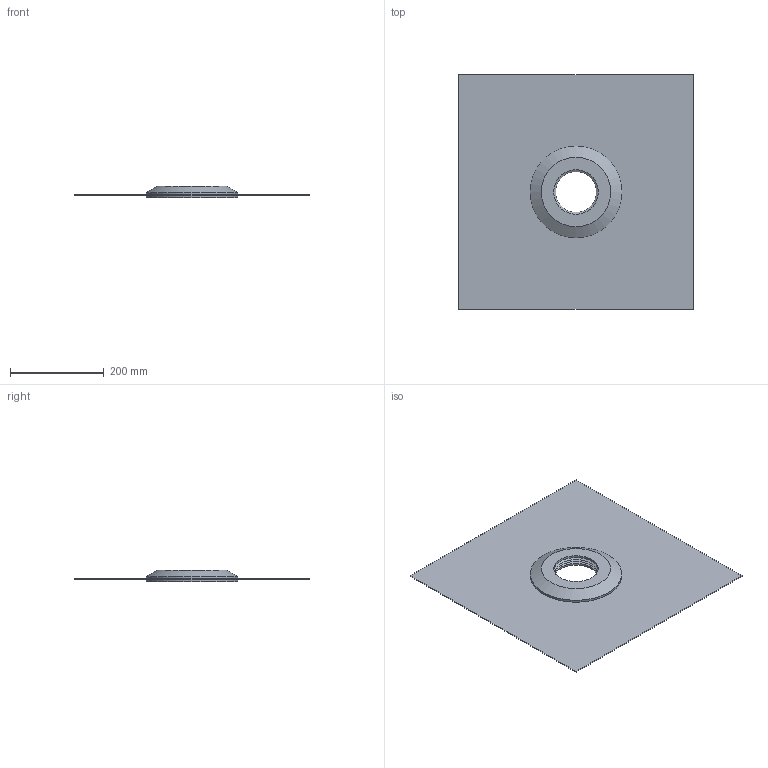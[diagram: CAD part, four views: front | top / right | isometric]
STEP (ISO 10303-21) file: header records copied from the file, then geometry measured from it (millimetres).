
FILE_DESCRIPTION(/* description */ (''),/* implementation_level */ '2;1');
FILE_NAME(/* name */ 'Z:\Geberit\Export\NewStep\Feucht_Ab_Dicht_ART\stp\366673.stp',/* time_stamp */ '2014-04-03T17:42:48+02:00',/* author */ ('bruh'),/* organization */ (''),/* preprocessor_version */ 'ST-DEVELOPER v15.2',/* originating_system */ 'Autodesk Inventor 2014',/* authorisation */ '');
FILE_SCHEMA (('AUTOMOTIVE_DESIGN { 1 0 10303 214 3 1 1 }'));
Length unit declared in the file: millimetre
Products named in the file (4): 366673_T1; 853.805.00.0; 863.863.00.0; 366673
Bounding box: 500 x 500 x 25 mm (x, y, z)
Volume: 772193.5 mm3; surface area: 586987.1 mm2
Topology: 3 solids, 3 shells, 29 faces, 51 edges, 32 vertices
Faces by surface type: plane 14, cylinder 8, cone 7
Full cylindrical faces by diameter (mm): 95 x2, 110 x2, 140 x2, 195 x2
Entity records: 754 total; most frequent: DIRECTION 132, CARTESIAN_POINT 104, ORIENTED_EDGE 72, AXIS2_PLACEMENT_3D 60, EDGE_LOOP 54, EDGE_CURVE 36, VERTEX_POINT 32, STYLED_ITEM 32
